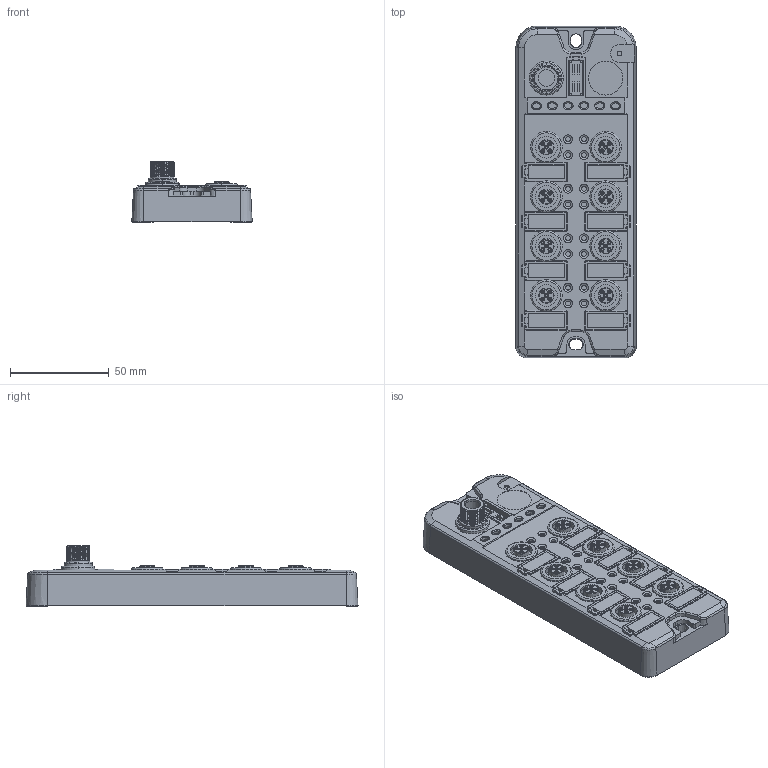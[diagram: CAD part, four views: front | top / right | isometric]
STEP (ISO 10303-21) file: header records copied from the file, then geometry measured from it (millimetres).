
FILE_DESCRIPTION((''),'2;1');
FILE_NAME('IOL7B_HUB_SW0001','2026-06-16T16:22:36',('Administrator'),(''),'CREO PARAMETRIC BY PTC INC, 2022073','CREO PARAMETRIC BY PTC INC, 2022073','');
FILE_SCHEMA(('CONFIG_CONTROL_DESIGN','SHAPE_APPEARANCE_LAYERS_GROUPS'));
Products named in the file (1): IOL7B_HUB_SW0001
Bounding box: 60.89 x 167.89 x 30.8 mm (x, y, z)
Volume: 175647.8 mm3; surface area: 37724.4 mm2
Topology: 1 solids, 1 shells, 1701 faces, 4400 edges, 2803 vertices
Faces by surface type: plane 831, cone 496, cylinder 206, bspline 114, torus 50, extrusion 4
Entity records: 70381 total; most frequent: CARTESIAN_POINT 17706, ORIENTED_EDGE 8800, DIRECTION 8628, EDGE_CURVE 4400, AXIS2_PLACEMENT_3D 2948, VERTEX_POINT 2803, VECTOR 2732, LINE 2728
